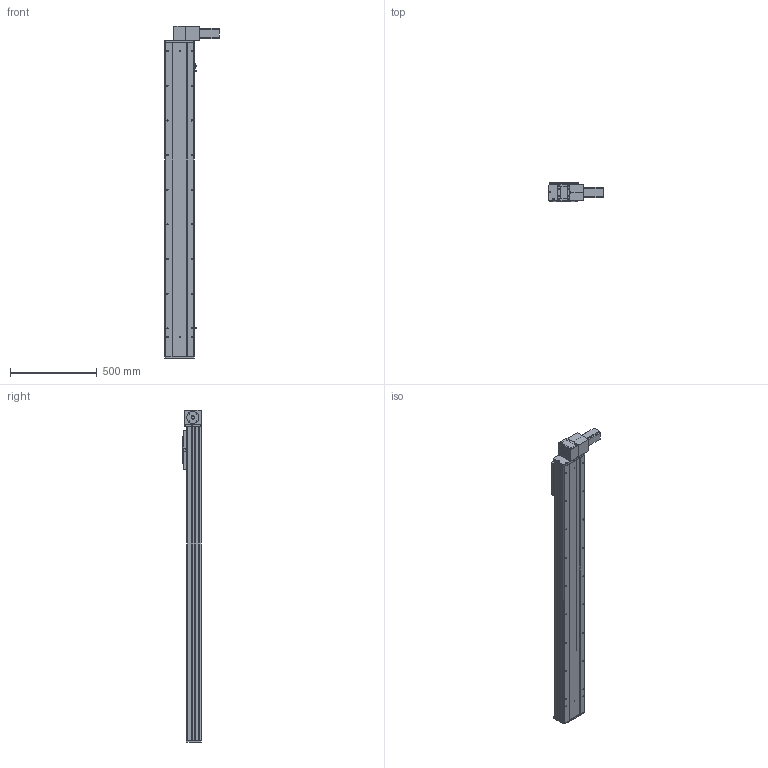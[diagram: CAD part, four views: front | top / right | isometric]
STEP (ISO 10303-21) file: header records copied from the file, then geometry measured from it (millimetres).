
FILE_DESCRIPTION (( 'STEP AP203' ), '1' );
FILE_NAME ('Y170CB-D105-S1500-BD-P400W.STEP', '2020-02-20T08:46:29', ( '微软用户' ), ( '微软中国' ), 'SwSTEP 2.0', 'SolidWorks 2017', '' );
FILE_SCHEMA (( 'CONFIG_CONTROL_DESIGN' ));
Length unit declared in the file: millimetre
Products named in the file (16): --70CB --喘謫眊楊擘啣-; 70CB-耜裔啣-; Y170CB-陔俋离換覜結え---; 70C--詩湍揤踡え-; Y1埴倛裔; 70CB--耜裔; 70B喘謫眊----; 70C-雄赽釱-奻-; 0B薊粣ん眊-400W--; 0C--雄赽釱俋欶-170; B-源倛裔啣; Y170CB-D105-S1500-BD-P400W; 70CB-詩湍--; san松下电机400不带刹车----; Y100-135俋离換覜ん--; 70CB-掛极-
Assembly tree (19 placements, depth 2):
  Y170CB-D105-S1500-BD-P400W
    B-源倛裔啣
    san松下电机400不带刹车----
    70CB-掛极-
    --70CB --喘謫眊楊擘啣-
    70CB-耜裔啣-  x2
    70C--詩湍揤踡え-  x2
    70CB--耜裔
    70C-雄赽釱-奻-
    0C--雄赽釱俋欶-170
    70CB-詩湍--
    Y100-135俋离換覜ん--  x3
    Y170CB-陔俋离換覜結え---
    Y1埴倛裔
    70B喘謫眊----
    0B薊粣ん眊-400W--
Bounding box: 313.5 x 107 x 1916 mm (x, y, z)
Volume: 8794899.9 mm3; surface area: 3032886.8 mm2
Topology: 19 solids, 19 shells, 944 faces, 2498 edges, 1656 vertices
Faces by surface type: cylinder 498, plane 422, cone 24
Entity records: 29595 total; most frequent: CARTESIAN_POINT 5506, DIRECTION 4815, ORIENTED_EDGE 4478, EDGE_CURVE 2239, AXIS2_PLACEMENT_3D 1781, VERTEX_POINT 1486, VECTOR 1253, LINE 1253
